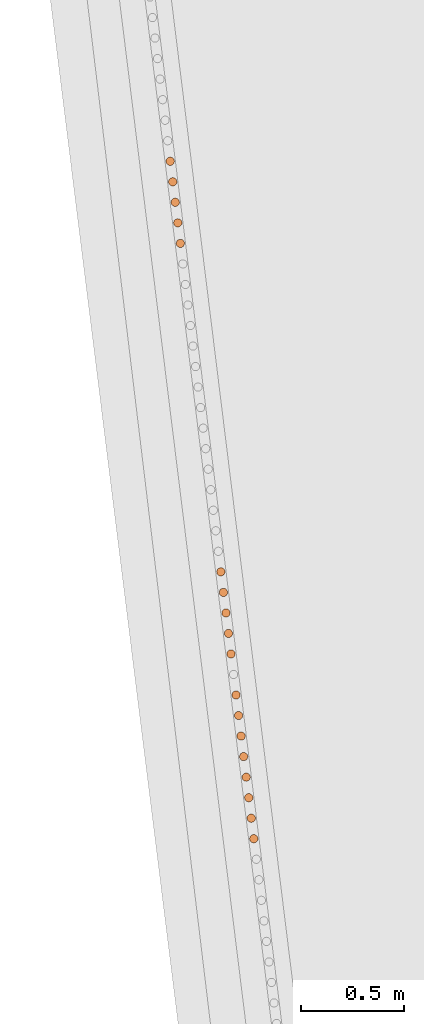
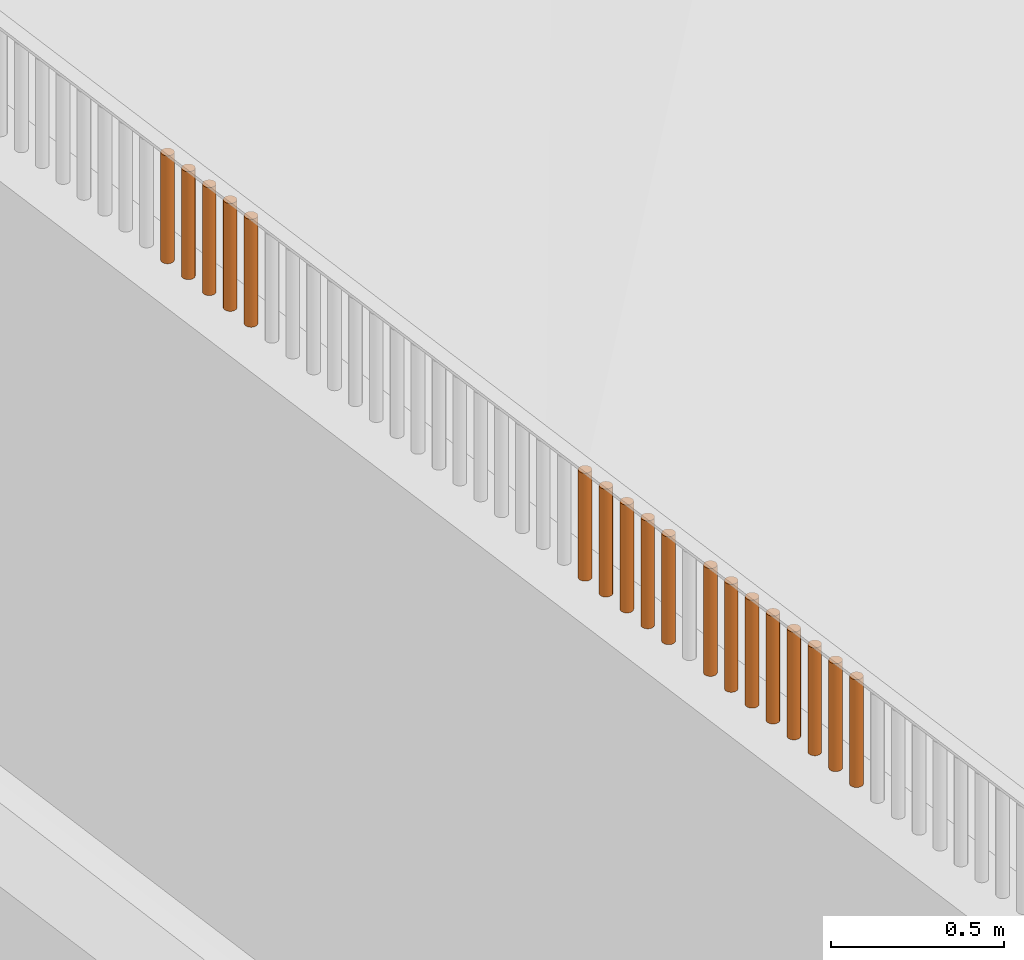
# One storey, part 222 of 1809: 18 proxies, 1 element without a shape of its own.
"""IFC2X3 building model written with IfcOpenShell, lengths in millimetres."""

from ifc_helpers import new_model, entity, si_unit, converted_unit, derived_unit, money_unit, direction, frame, origin_with_axes, place, context, subcontext, project, spatial, faceted_brep, source, transform, mapped, material, type_object, element, aggregate, save


model = new_model("IFC2X3")

# Units and contexts
model_context = context("Model", 3, precision=0.01, world=origin_with_axes(), true_north=direction((0.0, 1.0)))
body_context = subcontext(model_context, "Body", "Model", "MODEL_VIEW")
ifc_project = project(units=[si_unit("LENGTHUNIT", "METRE", prefix="MILLI"), si_unit("AREAUNIT", "SQUARE_METRE"), si_unit("VOLUMEUNIT", "CUBIC_METRE"), converted_unit("PLANEANGLEUNIT", "DEGREE", entity("IfcPlaneAngleMeasure", 0.0174532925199), si_unit("PLANEANGLEUNIT", "RADIAN"), dimensions=[0, 0, 0, 0, 0, 0, 0]), si_unit("SOLIDANGLEUNIT", "STERADIAN"), money_unit("EUR"), converted_unit("TIMEUNIT", "Year", entity("IfcTimeMeasure", 31556926.0), si_unit("TIMEUNIT", "SECOND"), dimensions=[0, 0, 1, 0, 0, 0, 0]), si_unit("MASSUNIT", "GRAM", prefix="KILO"), si_unit("THERMODYNAMICTEMPERATUREUNIT", "DEGREE_CELSIUS"), si_unit("LUMINOUSINTENSITYUNIT", "LUMEN"), si_unit("ENERGYUNIT", "JOULE", prefix="MEGA"), derived_unit("THERMALCONDUCTANCEUNIT", [(si_unit("POWERUNIT", "WATT"), 1), (si_unit("LENGTHUNIT", "METRE"), -1), (si_unit("THERMODYNAMICTEMPERATUREUNIT", "KELVIN"), -1)]), derived_unit("SPECIFICHEATCAPACITYUNIT", [(si_unit("ENERGYUNIT", "JOULE"), 1), (si_unit("MASSUNIT", "GRAM", prefix="KILO"), -1), (si_unit("THERMODYNAMICTEMPERATUREUNIT", "KELVIN"), -1)]), derived_unit("MASSDENSITYUNIT", [(si_unit("MASSUNIT", "GRAM", prefix="KILO"), 1), (si_unit("VOLUMEUNIT", "CUBIC_METRE"), -1)])], contexts=[model_context])

# Site, building, storey
site_placement = place(None, origin_with_axes())
site = spatial("IfcSite", under=ifc_project, at=site_placement, Name="Politse- ja Piirivalveameti ning Päästeameti ühishoone", CompositionType="ELEMENT")
building_placement = place(site_placement, origin_with_axes())
building = spatial("IfcBuilding", under=site, at=building_placement, Name="Politse- ja Piirivalveameti ning Päästeameti ühishoone", CompositionType="ELEMENT")
storey_placement = place(building_placement, origin_with_axes())
storey = spatial("IfcBuildingStorey", under=building, at=storey_placement, Name="Esimene korrus", CompositionType="ELEMENT", Elevation=0.0)

# Proxies
building_element_proxy_type_1 = type_object("IfcBuildingElementProxyType", Name="Railing Type", PredefinedType="NOTDEFINED")
proxy_1_placement = place(storey_placement, frame((-18956.5522504, -53688.4757966, 2100.0), z_axis=(0.0, 0.0, 1.0), x_axis=(1.0, 0.0, 0.0)))
proxy_1 = element("IfcBuildingElementProxy", 1, at=proxy_1_placement, inside=storey, type_object=building_element_proxy_type_1, Name="PIIRDEAED")
ifc_material = material(Name="ET-06_Teras - Konstruktsioon")
building_element_proxy_type_2 = type_object("IfcBuildingElementProxyType", Name="IfcBuildingElementProxy", PredefinedType="NOTDEFINED")
shared_shape_1 = source(origin_with_axes(), body_context, "Body", "Brep", [
    faceted_brep([(0.0, -20.0, 0.0), (3.47296355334, -19.6961550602, 0.0), (3.47296355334, -19.6961550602, 380.000012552), (0.0, -20.0, 380.000012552), (-3.47296355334, -19.6961550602, 0.0), (-6.84040286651, -18.7938524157, 0.0), (-10.0, -17.3205080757, 0.0), (-12.8557521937, -15.3208888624, 0.0), (-15.3208888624, -12.8557521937, 0.0), (-17.3205080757, -10.0, 0.0), (-18.7938524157, -6.84040286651, 0.0), (-19.6961550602, -3.47296355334, 0.0), (-20.0, 0.0, 0.0), (-19.6961550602, 3.47296355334, 0.0), (-18.7938524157, 6.84040286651, 0.0), (-17.3205080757, 10.0, 0.0), (-15.3208888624, 12.8557521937, 0.0), (-12.8557521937, 15.3208888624, 0.0), (-10.0, 17.3205080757, 0.0), (-6.84040286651, 18.7938524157, 0.0), (-3.47296355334, 19.6961550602, 0.0), (0.0, 20.0, 0.0), (3.47296355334, 19.6961550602, 0.0), (6.84040286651, 18.7938524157, 0.0), (10.0, 17.3205080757, 0.0), (12.8557521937, 15.3208888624, 0.0), (15.3208888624, 12.8557521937, 0.0), (17.3205080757, 10.0, 0.0), (18.7938524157, 6.84040286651, 0.0), (19.6961550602, 3.47296355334, 0.0), (20.0, 0.0, 0.0), (19.6961550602, -3.47296355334, 0.0), (18.7938524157, -6.84040286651, 0.0), (17.3205080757, -10.0, 0.0), (15.3208888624, -12.8557521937, 0.0), (12.8557521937, -15.3208888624, 0.0), (10.0, -17.3205080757, 0.0), (6.84040286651, -18.7938524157, 0.0), (6.84040286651, -18.7938524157, 380.000012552), (10.0, -17.3205080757, 380.000012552), (12.8557521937, -15.3208888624, 380.000012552), (15.3208888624, -12.8557521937, 380.000012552), (17.3205080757, -10.0, 380.000012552), (18.7938524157, -6.84040286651, 380.000012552), (19.6961550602, -3.47296355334, 380.000012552), (20.0, 0.0, 380.000012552), (19.6961550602, 3.47296355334, 380.000012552), (18.7938524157, 6.84040286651, 380.000012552), (17.3205080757, 10.0, 380.000012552), (15.3208888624, 12.8557521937, 380.000012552), (12.8557521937, 15.3208888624, 380.000012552), (10.0, 17.3205080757, 380.000012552), (6.84040286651, 18.7938524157, 380.000012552), (3.47296355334, 19.6961550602, 380.000012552), (0.0, 20.0, 380.000012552), (-3.47296355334, 19.6961550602, 380.000012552), (-6.84040286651, 18.7938524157, 380.000012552), (-10.0, 17.3205080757, 380.000012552), (-12.8557521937, 15.3208888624, 380.000012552), (-15.3208888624, 12.8557521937, 380.000012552), (-17.3205080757, 10.0, 380.000012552), (-18.7938524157, 6.84040286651, 380.000012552), (-19.6961550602, 3.47296355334, 380.000012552), (-20.0, 0.0, 380.000012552), (-19.6961550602, -3.47296355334, 380.000012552), (-18.7938524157, -6.84040286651, 380.000012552), (-17.3205080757, -10.0, 380.000012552), (-15.3208888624, -12.8557521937, 380.000012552), (-12.8557521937, -15.3208888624, 380.000012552), (-10.0, -17.3205080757, 380.000012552), (-6.84040286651, -18.7938524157, 380.000012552), (-3.47296355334, -19.6961550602, 380.000012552)], [[[0, 1, 2, 3]], [[0, 4, 5, 6, 7, 8, 9, 10, 11, 12, 13, 14, 15, 16, 17, 18, 19, 20, 21, 22, 23, 24, 25, 26, 27, 28, 29, 30, 31, 32, 33, 34, 35, 36, 37, 1]], [[1, 37, 38, 2]], [[3, 2, 38, 39, 40, 41, 42, 43, 44, 45, 46, 47, 48, 49, 50, 51, 52, 53, 54, 55, 56, 57, 58, 59, 60, 61, 62, 63, 64, 65, 66, 67, 68, 69, 70, 71]], [[4, 0, 3, 71]], [[5, 4, 71, 70]], [[6, 5, 70, 69]], [[7, 6, 69, 68]], [[8, 7, 68, 67]], [[9, 8, 67, 66]], [[10, 9, 66, 65]], [[11, 10, 65, 64]], [[12, 11, 64, 63]], [[13, 12, 63, 62]], [[14, 13, 62, 61]], [[15, 14, 61, 60]], [[16, 15, 60, 59]], [[17, 16, 59, 58]], [[18, 17, 58, 57]], [[19, 18, 57, 56]], [[20, 19, 56, 55]], [[21, 20, 55, 54]], [[22, 21, 54, 53]], [[23, 22, 53, 52]], [[24, 23, 52, 51]], [[25, 24, 51, 50]], [[26, 25, 50, 49]], [[27, 26, 49, 48]], [[28, 27, 48, 47]], [[29, 28, 47, 46]], [[30, 29, 46, 45]], [[31, 30, 45, 44]], [[32, 31, 44, 43]], [[33, 32, 43, 42]], [[34, 33, 42, 41]], [[35, 34, 41, 40]], [[36, 35, 40, 39]], [[37, 36, 39, 38]]]),
])
proxy_2_placement = place(proxy_1_placement, frame((-4698.15989006, 37228.2400611, -1.25517001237e-05), z_axis=(0.0, 0.0, 1.0), x_axis=(1.0, 0.0, 0.0)))
proxy_2 = element("IfcBuildingElementProxy", 2, at=proxy_2_placement, type_object=building_element_proxy_type_2, material=ifc_material, Name="BALUSTER - 001", context=body_context, shape_type="MappedRepresentation", body=[
    mapped(shared_shape_1, transform((0.0, 0.0, 0.0), x_axis=(0.992468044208, 0.122503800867, 0.0), y_axis=(-0.122503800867, 0.992468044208, 0.0), z_axis=(0.0, 0.0, 1.0))),
])
proxy_3_placement = place(proxy_1_placement, frame((-4722.65529988, 37426.6903239, -1.25517001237e-05), z_axis=(0.0, 0.0, 1.0), x_axis=(1.0, 0.0, 0.0)))
proxy_3 = element("IfcBuildingElementProxy", 3, at=proxy_3_placement, type_object=building_element_proxy_type_2, material=ifc_material, Name="BALUSTER - 001", context=body_context, shape_type="MappedRepresentation", body=[
    mapped(shared_shape_1, transform((0.0, 0.0, 0.0), x_axis=(0.992468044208, 0.122503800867, 0.0), y_axis=(-0.122503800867, 0.992468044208, 0.0), z_axis=(0.0, 0.0, 1.0))),
])
proxy_4_placement = place(proxy_1_placement, frame((-4734.9030048, 37525.9154553, -1.25517001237e-05), z_axis=(0.0, 0.0, 1.0), x_axis=(1.0, 0.0, 0.0)))
proxy_4 = element("IfcBuildingElementProxy", 4, at=proxy_4_placement, type_object=building_element_proxy_type_2, material=ifc_material, Name="BALUSTER - 001", context=body_context, shape_type="MappedRepresentation", body=[
    mapped(shared_shape_1, transform((0.0, 0.0, 0.0), x_axis=(0.992468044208, 0.122503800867, 0.0), y_axis=(-0.122503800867, 0.992468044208, 0.0), z_axis=(0.0, 0.0, 1.0))),
])
proxy_5_placement = place(proxy_1_placement, frame((-4747.15070971, 37625.1405868, -1.25517001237e-05), z_axis=(0.0, 0.0, 1.0), x_axis=(1.0, 0.0, 0.0)))
proxy_5 = element("IfcBuildingElementProxy", 5, at=proxy_5_placement, type_object=building_element_proxy_type_2, material=ifc_material, Name="BALUSTER - 001", context=body_context, shape_type="MappedRepresentation", body=[
    mapped(shared_shape_1, transform((0.0, 0.0, 0.0), x_axis=(0.992468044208, 0.122503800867, 0.0), y_axis=(-0.122503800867, 0.992468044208, 0.0), z_axis=(0.0, 0.0, 1.0))),
])
proxy_6_placement = place(proxy_1_placement, frame((-4771.64611954, 37823.5908496, -1.25517001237e-05), z_axis=(0.0, 0.0, 1.0), x_axis=(1.0, 0.0, 0.0)))
proxy_6 = element("IfcBuildingElementProxy", 6, at=proxy_6_placement, type_object=building_element_proxy_type_2, material=ifc_material, Name="BALUSTER - 001", context=body_context, shape_type="MappedRepresentation", body=[
    mapped(shared_shape_1, transform((0.0, 0.0, 0.0), x_axis=(0.992468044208, 0.122503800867, 0.0), y_axis=(-0.122503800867, 0.992468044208, 0.0), z_axis=(0.0, 0.0, 1.0))),
])
shared_shape_2 = source(origin_with_axes(), body_context, "Body", "Brep", [
    faceted_brep([(0.0, -20.0, 0.0), (3.47296355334, -19.6961550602, 0.0), (3.47296355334, -19.6961550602, 380.000012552), (0.0, -20.0, 380.000012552), (-3.47296355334, -19.6961550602, 0.0), (-6.84040286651, -18.7938524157, 0.0), (-10.0, -17.3205080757, 0.0), (-12.8557521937, -15.3208888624, 0.0), (-15.3208888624, -12.8557521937, 0.0), (-17.3205080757, -10.0, 0.0), (-18.7938524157, -6.84040286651, 0.0), (-19.6961550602, -3.47296355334, 0.0), (-20.0, 0.0, 0.0), (-19.6961550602, 3.47296355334, 0.0), (-18.7938524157, 6.84040286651, 0.0), (-17.3205080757, 10.0, 0.0), (-15.3208888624, 12.8557521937, 0.0), (-12.8557521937, 15.3208888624, 0.0), (-10.0, 17.3205080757, 0.0), (-6.84040286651, 18.7938524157, 0.0), (-3.47296355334, 19.6961550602, 0.0), (0.0, 20.0, 0.0), (3.47296355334, 19.6961550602, 0.0), (6.84040286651, 18.7938524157, 0.0), (10.0, 17.3205080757, 0.0), (12.8557521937, 15.3208888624, 0.0), (15.3208888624, 12.8557521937, 0.0), (17.3205080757, 10.0, 0.0), (18.7938524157, 6.84040286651, 0.0), (19.6961550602, 3.47296355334, 0.0), (20.0, 0.0, 0.0), (19.6961550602, -3.47296355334, 0.0), (18.7938524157, -6.84040286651, 0.0), (17.3205080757, -10.0, 0.0), (15.3208888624, -12.8557521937, 0.0), (12.8557521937, -15.3208888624, 0.0), (10.0, -17.3205080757, 0.0), (6.84040286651, -18.7938524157, 0.0), (6.84040286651, -18.7938524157, 380.000012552), (10.0, -17.3205080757, 380.000012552), (12.8557521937, -15.3208888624, 380.000012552), (15.3208888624, -12.8557521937, 380.000012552), (17.3205080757, -10.0, 380.000012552), (18.7938524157, -6.84040286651, 380.000012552), (19.6961550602, -3.47296355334, 380.000012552), (20.0, 0.0, 380.000012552), (19.6961550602, 3.47296355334, 380.000012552), (18.7938524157, 6.84040286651, 380.000012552), (17.3205080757, 10.0, 380.000012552), (15.3208888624, 12.8557521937, 380.000012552), (12.8557521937, 15.3208888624, 380.000012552), (10.0, 17.3205080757, 380.000012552), (6.84040286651, 18.7938524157, 380.000012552), (3.47296355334, 19.6961550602, 380.000012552), (0.0, 20.0, 380.000012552), (-3.47296355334, 19.6961550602, 380.000012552), (-6.84040286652, 18.7938524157, 380.000012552), (-10.0, 17.3205080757, 380.000012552), (-12.8557521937, 15.3208888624, 380.000012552), (-15.3208888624, 12.8557521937, 380.000012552), (-17.3205080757, 10.0, 380.000012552), (-18.7938524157, 6.84040286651, 380.000012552), (-19.6961550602, 3.47296355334, 380.000012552), (-20.0, 0.0, 380.000012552), (-19.6961550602, -3.47296355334, 380.000012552), (-18.7938524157, -6.84040286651, 380.000012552), (-17.3205080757, -10.0, 380.000012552), (-15.3208888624, -12.8557521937, 380.000012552), (-12.8557521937, -15.3208888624, 380.000012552), (-10.0, -17.3205080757, 380.000012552), (-6.84040286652, -18.7938524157, 380.000012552), (-3.47296355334, -19.6961550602, 380.000012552)], [[[0, 1, 2, 3]], [[0, 4, 5, 6, 7, 8, 9, 10, 11, 12, 13, 14, 15, 16, 17, 18, 19, 20, 21, 22, 23, 24, 25, 26, 27, 28, 29, 30, 31, 32, 33, 34, 35, 36, 37, 1]], [[1, 37, 38, 2]], [[3, 2, 38, 39, 40, 41, 42, 43, 44, 45, 46, 47, 48, 49, 50, 51, 52, 53, 54, 55, 56, 57, 58, 59, 60, 61, 62, 63, 64, 65, 66, 67, 68, 69, 70, 71]], [[4, 0, 3, 71]], [[5, 4, 71, 70]], [[6, 5, 70, 69]], [[7, 6, 69, 68]], [[8, 7, 68, 67]], [[9, 8, 67, 66]], [[10, 9, 66, 65]], [[11, 10, 65, 64]], [[12, 11, 64, 63]], [[13, 12, 63, 62]], [[14, 13, 62, 61]], [[15, 14, 61, 60]], [[16, 15, 60, 59]], [[17, 16, 59, 58]], [[18, 17, 58, 57]], [[19, 18, 57, 56]], [[20, 19, 56, 55]], [[21, 20, 55, 54]], [[22, 21, 54, 53]], [[23, 22, 53, 52]], [[24, 23, 52, 51]], [[25, 24, 51, 50]], [[26, 25, 50, 49]], [[27, 26, 49, 48]], [[28, 27, 48, 47]], [[29, 28, 47, 46]], [[30, 29, 46, 45]], [[31, 30, 45, 44]], [[32, 31, 44, 43]], [[33, 32, 43, 42]], [[34, 33, 42, 41]], [[35, 34, 41, 40]], [[36, 35, 40, 39]], [[37, 36, 39, 38]]]),
])
proxy_7_placement = place(proxy_1_placement, frame((-4624.67366058, 36632.8892725, -1.25517001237e-05), z_axis=(0.0, 0.0, 1.0), x_axis=(1.0, 0.0, 0.0)))
proxy_7 = element("IfcBuildingElementProxy", 7, at=proxy_7_placement, type_object=building_element_proxy_type_2, material=ifc_material, Name="BALUSTER - 001", context=body_context, shape_type="MappedRepresentation", body=[
    mapped(shared_shape_2, transform((0.0, 0.0, 0.0), x_axis=(0.992468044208, 0.122503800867, 0.0), y_axis=(-0.122503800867, 0.992468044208, 0.0), z_axis=(0.0, 0.0, 1.0))),
])
proxy_8_placement = place(proxy_1_placement, frame((-5004.35251288, 39708.8683467, -1.25517001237e-05), z_axis=(0.0, 0.0, 1.0), x_axis=(1.0, 0.0, 0.0)))
proxy_8 = element("IfcBuildingElementProxy", 8, at=proxy_8_placement, type_object=building_element_proxy_type_2, material=ifc_material, Name="BALUSTER - 001", context=body_context, shape_type="MappedRepresentation", body=[
    mapped(shared_shape_2, transform((0.0, 0.0, 0.0), x_axis=(0.992468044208, 0.122503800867, 0.0), y_axis=(-0.122503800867, 0.992468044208, 0.0), z_axis=(0.0, 0.0, 1.0))),
])
shared_shape_3 = source(origin_with_axes(), body_context, "Body", "Brep", [
    faceted_brep([(0.0, -20.0, 0.0), (3.47296355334, -19.6961550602, 0.0), (3.47296355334, -19.6961550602, 380.000012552), (0.0, -20.0, 380.000012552), (-3.47296355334, -19.6961550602, 0.0), (-6.84040286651, -18.7938524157, 0.0), (-10.0, -17.3205080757, 0.0), (-12.8557521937, -15.3208888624, 0.0), (-15.3208888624, -12.8557521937, 0.0), (-17.3205080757, -10.0, 0.0), (-18.7938524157, -6.84040286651, 0.0), (-19.6961550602, -3.47296355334, 0.0), (-20.0, 0.0, 0.0), (-19.6961550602, 3.47296355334, 0.0), (-18.7938524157, 6.84040286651, 0.0), (-17.3205080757, 10.0, 0.0), (-15.3208888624, 12.8557521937, 0.0), (-12.8557521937, 15.3208888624, 0.0), (-10.0, 17.3205080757, 0.0), (-6.84040286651, 18.7938524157, 0.0), (-3.47296355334, 19.6961550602, 0.0), (0.0, 20.0, 0.0), (3.47296355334, 19.6961550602, 0.0), (6.84040286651, 18.7938524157, 0.0), (10.0, 17.3205080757, 0.0), (12.8557521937, 15.3208888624, 0.0), (15.3208888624, 12.8557521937, 0.0), (17.3205080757, 10.0, 0.0), (18.7938524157, 6.84040286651, 0.0), (19.6961550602, 3.47296355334, 0.0), (20.0, 0.0, 0.0), (19.6961550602, -3.47296355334, 0.0), (18.7938524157, -6.84040286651, 0.0), (17.3205080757, -10.0, 0.0), (15.3208888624, -12.8557521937, 0.0), (12.8557521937, -15.3208888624, 0.0), (10.0, -17.3205080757, 0.0), (6.84040286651, -18.7938524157, 0.0), (6.84040286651, -18.7938524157, 380.000012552), (10.0, -17.3205080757, 380.000012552), (12.8557521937, -15.3208888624, 380.000012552), (15.3208888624, -12.8557521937, 380.000012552), (17.3205080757, -10.0, 380.000012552), (18.7938524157, -6.84040286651, 380.000012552), (19.6961550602, -3.47296355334, 380.000012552), (20.0, 0.0, 380.000012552), (19.6961550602, 3.47296355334, 380.000012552), (18.7938524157, 6.84040286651, 380.000012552), (17.3205080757, 10.0, 380.000012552), (15.3208888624, 12.8557521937, 380.000012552), (12.8557521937, 15.3208888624, 380.000012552), (10.0, 17.3205080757, 380.000012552), (6.84040286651, 18.7938524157, 380.000012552), (3.47296355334, 19.6961550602, 380.000012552), (0.0, 20.0, 380.000012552), (-3.47296355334, 19.6961550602, 380.000012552), (-6.84040286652, 18.7938524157, 380.000012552), (-10.0, 17.3205080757, 380.000012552), (-12.8557521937, 15.3208888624, 380.000012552), (-15.3208888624, 12.8557521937, 380.000012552), (-17.3205080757, 10.0, 380.000012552), (-18.7938524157, 6.84040286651, 380.000012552), (-19.6961550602, 3.47296355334, 380.000012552), (-20.0, 0.0, 380.000012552), (-19.6961550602, -3.47296355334, 380.000012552), (-18.7938524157, -6.84040286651, 380.000012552), (-17.3205080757, -10.0, 380.000012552), (-15.3208888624, -12.8557521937, 380.000012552), (-12.8557521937, -15.3208888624, 380.000012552), (-10.0, -17.3205080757, 380.000012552), (-6.84040286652, -18.7938524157, 380.000012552), (-3.47296355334, -19.6961550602, 380.000012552)], [[[0, 1, 2, 3]], [[0, 4, 5, 6, 7, 8, 9, 10, 11, 12, 13, 14, 15, 16, 17, 18, 19, 20, 21, 22, 23, 24, 25, 26, 27, 28, 29, 30, 31, 32, 33, 34, 35, 36, 37, 1]], [[1, 37, 38, 2]], [[3, 2, 38, 39, 40, 41, 42, 43, 44, 45, 46, 47, 48, 49, 50, 51, 52, 53, 54, 55, 56, 57, 58, 59, 60, 61, 62, 63, 64, 65, 66, 67, 68, 69, 70, 71]], [[4, 0, 3, 71]], [[5, 4, 71, 70]], [[6, 5, 70, 69]], [[7, 6, 69, 68]], [[8, 7, 68, 67]], [[9, 8, 67, 66]], [[10, 9, 66, 65]], [[11, 10, 65, 64]], [[12, 11, 64, 63]], [[13, 12, 63, 62]], [[14, 13, 62, 61]], [[15, 14, 61, 60]], [[16, 15, 60, 59]], [[17, 16, 59, 58]], [[18, 17, 58, 57]], [[19, 18, 57, 56]], [[20, 19, 56, 55]], [[21, 20, 55, 54]], [[22, 21, 54, 53]], [[23, 22, 53, 52]], [[24, 23, 52, 51]], [[25, 24, 51, 50]], [[26, 25, 50, 49]], [[27, 26, 49, 48]], [[28, 27, 48, 47]], [[29, 28, 47, 46]], [[30, 29, 46, 45]], [[31, 30, 45, 44]], [[32, 31, 44, 43]], [[33, 32, 43, 42]], [[34, 33, 42, 41]], [[35, 34, 41, 40]], [[36, 35, 40, 39]], [[37, 36, 39, 38]]]),
])
proxy_9_placement = place(proxy_1_placement, frame((-4649.16907041, 36831.3395354, -1.25517001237e-05), z_axis=(0.0, 0.0, 1.0), x_axis=(1.0, 0.0, 0.0)))
proxy_9 = element("IfcBuildingElementProxy", 9, at=proxy_9_placement, type_object=building_element_proxy_type_2, material=ifc_material, Name="BALUSTER - 001", context=body_context, shape_type="MappedRepresentation", body=[
    mapped(shared_shape_3, transform((0.0, 0.0, 0.0), x_axis=(0.992468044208, 0.122503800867, 0.0), y_axis=(-0.122503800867, 0.992468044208, 0.0), z_axis=(0.0, 0.0, 1.0))),
])
proxy_10_placement = place(proxy_1_placement, frame((-4661.41677532, 36930.5646668, -1.25517001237e-05), z_axis=(0.0, 0.0, 1.0), x_axis=(1.0, 0.0, 0.0)))
proxy_10 = element("IfcBuildingElementProxy", 10, at=proxy_10_placement, type_object=building_element_proxy_type_2, material=ifc_material, Name="BALUSTER - 001", context=body_context, shape_type="MappedRepresentation", body=[
    mapped(shared_shape_3, transform((0.0, 0.0, 0.0), x_axis=(0.992468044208, 0.122503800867, 0.0), y_axis=(-0.122503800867, 0.992468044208, 0.0), z_axis=(0.0, 0.0, 1.0))),
])
proxy_11_placement = place(proxy_1_placement, frame((-4685.91218514, 37129.0149296, -1.25517001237e-05), z_axis=(0.0, 0.0, 1.0), x_axis=(1.0, 0.0, 0.0)))
proxy_11 = element("IfcBuildingElementProxy", 11, at=proxy_11_placement, type_object=building_element_proxy_type_2, material=ifc_material, Name="BALUSTER - 001", context=body_context, shape_type="MappedRepresentation", body=[
    mapped(shared_shape_3, transform((0.0, 0.0, 0.0), x_axis=(0.992468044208, 0.122503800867, 0.0), y_axis=(-0.122503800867, 0.992468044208, 0.0), z_axis=(0.0, 0.0, 1.0))),
])
proxy_12_placement = place(proxy_1_placement, frame((-4967.60939815, 39411.1929524, -1.25517001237e-05), z_axis=(0.0, 0.0, 1.0), x_axis=(1.0, 0.0, 0.0)))
proxy_12 = element("IfcBuildingElementProxy", 12, at=proxy_12_placement, type_object=building_element_proxy_type_2, material=ifc_material, Name="BALUSTER - 001", context=body_context, shape_type="MappedRepresentation", body=[
    mapped(shared_shape_3, transform((0.0, 0.0, 0.0), x_axis=(0.992468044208, 0.122503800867, 0.0), y_axis=(-0.122503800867, 0.992468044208, 0.0), z_axis=(0.0, 0.0, 1.0))),
])
shared_shape_4 = source(origin_with_axes(), body_context, "Body", "Brep", [
    faceted_brep([(0.0, -20.0, 0.0), (3.47296355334, -19.6961550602, 0.0), (3.47296355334, -19.6961550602, 380.000012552), (0.0, -20.0, 380.000012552), (-3.47296355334, -19.6961550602, 0.0), (-6.84040286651, -18.7938524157, 0.0), (-10.0, -17.3205080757, 0.0), (-12.8557521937, -15.3208888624, 0.0), (-15.3208888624, -12.8557521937, 0.0), (-17.3205080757, -10.0, 0.0), (-18.7938524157, -6.84040286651, 0.0), (-19.6961550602, -3.47296355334, 0.0), (-20.0, 0.0, 0.0), (-19.6961550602, 3.47296355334, 0.0), (-18.7938524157, 6.84040286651, 0.0), (-17.3205080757, 10.0, 0.0), (-15.3208888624, 12.8557521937, 0.0), (-12.8557521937, 15.3208888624, 0.0), (-10.0, 17.3205080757, 0.0), (-6.84040286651, 18.7938524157, 0.0), (-3.47296355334, 19.6961550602, 0.0), (0.0, 20.0, 0.0), (3.47296355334, 19.6961550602, 0.0), (6.84040286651, 18.7938524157, 0.0), (10.0, 17.3205080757, 0.0), (12.8557521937, 15.3208888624, 0.0), (15.3208888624, 12.8557521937, 0.0), (17.3205080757, 10.0, 0.0), (18.7938524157, 6.84040286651, 0.0), (19.6961550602, 3.47296355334, 0.0), (20.0, 0.0, 0.0), (19.6961550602, -3.47296355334, 0.0), (18.7938524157, -6.84040286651, 0.0), (17.3205080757, -10.0, 0.0), (15.3208888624, -12.8557521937, 0.0), (12.8557521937, -15.3208888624, 0.0), (10.0, -17.3205080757, 0.0), (6.84040286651, -18.7938524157, 0.0), (6.84040286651, -18.7938524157, 380.000012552), (10.0, -17.3205080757, 380.000012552), (12.8557521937, -15.3208888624, 380.000012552), (15.3208888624, -12.8557521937, 380.000012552), (17.3205080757, -10.0, 380.000012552), (18.7938524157, -6.84040286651, 380.000012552), (19.6961550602, -3.47296355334, 380.000012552), (20.0, 0.0, 380.000012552), (19.6961550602, 3.47296355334, 380.000012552), (18.7938524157, 6.84040286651, 380.000012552), (17.3205080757, 10.0, 380.000012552), (15.3208888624, 12.8557521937, 380.000012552), (12.8557521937, 15.3208888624, 380.000012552), (10.0, 17.3205080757, 380.000012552), (6.84040286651, 18.7938524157, 380.000012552), (3.47296355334, 19.6961550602, 380.000012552), (0.0, 20.0, 380.000012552), (-3.47296355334, 19.6961550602, 380.000012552), (-6.84040286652, 18.7938524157, 380.000012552), (-10.0, 17.3205080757, 380.000012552), (-12.8557521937, 15.3208888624, 380.000012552), (-15.3208888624, 12.8557521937, 380.000012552), (-17.3205080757, 10.0, 380.000012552), (-18.7938524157, 6.84040286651, 380.000012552), (-19.6961550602, 3.47296355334, 380.000012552), (-20.0, 0.0, 380.000012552), (-19.6961550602, -3.47296355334, 380.000012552), (-18.7938524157, -6.84040286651, 380.000012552), (-17.3205080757, -10.0, 380.000012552), (-15.3208888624, -12.8557521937, 380.000012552), (-12.8557521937, -15.3208888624, 380.000012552), (-10.0, -17.3205080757, 380.000012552), (-6.84040286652, -18.7938524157, 380.000012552), (-3.47296355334, -19.6961550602, 380.000012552)], [[[0, 1, 2, 3]], [[0, 4, 5, 6, 7, 8, 9, 10, 11, 12, 13, 14, 15, 16, 17, 18, 19, 20, 21, 22, 23, 24, 25, 26, 27, 28, 29, 30, 31, 32, 33, 34, 35, 36, 37, 1]], [[1, 37, 38, 2]], [[3, 2, 38, 39, 40, 41, 42, 43, 44, 45, 46, 47, 48, 49, 50, 51, 52, 53, 54, 55, 56, 57, 58, 59, 60, 61, 62, 63, 64, 65, 66, 67, 68, 69, 70, 71]], [[4, 0, 3, 71]], [[5, 4, 71, 70]], [[6, 5, 70, 69]], [[7, 6, 69, 68]], [[8, 7, 68, 67]], [[9, 8, 67, 66]], [[10, 9, 66, 65]], [[11, 10, 65, 64]], [[12, 11, 64, 63]], [[13, 12, 63, 62]], [[14, 13, 62, 61]], [[15, 14, 61, 60]], [[16, 15, 60, 59]], [[17, 16, 59, 58]], [[18, 17, 58, 57]], [[19, 18, 57, 56]], [[20, 19, 56, 55]], [[21, 20, 55, 54]], [[22, 21, 54, 53]], [[23, 22, 53, 52]], [[24, 23, 52, 51]], [[25, 24, 51, 50]], [[26, 25, 50, 49]], [[27, 26, 49, 48]], [[28, 27, 48, 47]], [[29, 28, 47, 46]], [[30, 29, 46, 45]], [[31, 30, 45, 44]], [[32, 31, 44, 43]], [[33, 32, 43, 42]], [[34, 33, 42, 41]], [[35, 34, 41, 40]], [[36, 35, 40, 39]], [[37, 36, 39, 38]]]),
])
proxy_13_placement = place(proxy_1_placement, frame((-4612.42595567, 36533.6641411, -1.25517001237e-05), z_axis=(0.0, 0.0, 1.0), x_axis=(1.0, 0.0, 0.0)))
proxy_13 = element("IfcBuildingElementProxy", 13, at=proxy_13_placement, type_object=building_element_proxy_type_2, material=ifc_material, Name="BALUSTER - 001", context=body_context, shape_type="MappedRepresentation", body=[
    mapped(shared_shape_4, transform((0.0, 0.0, 0.0), x_axis=(0.992468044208, 0.122503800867, 0.0), y_axis=(-0.122503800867, 0.992468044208, 0.0), z_axis=(0.0, 0.0, 1.0))),
])
proxy_14_placement = place(proxy_1_placement, frame((-4636.92136549, 36732.1144039, -1.25517001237e-05), z_axis=(0.0, 0.0, 1.0), x_axis=(1.0, 0.0, 0.0)))
proxy_14 = element("IfcBuildingElementProxy", 14, at=proxy_14_placement, type_object=building_element_proxy_type_2, material=ifc_material, Name="BALUSTER - 001", context=body_context, shape_type="MappedRepresentation", body=[
    mapped(shared_shape_4, transform((0.0, 0.0, 0.0), x_axis=(0.992468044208, 0.122503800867, 0.0), y_axis=(-0.122503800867, 0.992468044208, 0.0), z_axis=(0.0, 0.0, 1.0))),
])
proxy_15_placement = place(proxy_1_placement, frame((-4673.66448023, 37029.7897982, -1.25517001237e-05), z_axis=(0.0, 0.0, 1.0), x_axis=(1.0, 0.0, 0.0)))
proxy_15 = element("IfcBuildingElementProxy", 15, at=proxy_15_placement, type_object=building_element_proxy_type_2, material=ifc_material, Name="BALUSTER - 001", context=body_context, shape_type="MappedRepresentation", body=[
    mapped(shared_shape_4, transform((0.0, 0.0, 0.0), x_axis=(0.992468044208, 0.122503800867, 0.0), y_axis=(-0.122503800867, 0.992468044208, 0.0), z_axis=(0.0, 0.0, 1.0))),
])
proxy_16_placement = place(proxy_1_placement, frame((-4759.39841462, 37724.3657182, -1.25517001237e-05), z_axis=(0.0, 0.0, 1.0), x_axis=(1.0, 0.0, 0.0)))
proxy_16 = element("IfcBuildingElementProxy", 16, at=proxy_16_placement, type_object=building_element_proxy_type_2, material=ifc_material, Name="BALUSTER - 001", context=body_context, shape_type="MappedRepresentation", body=[
    mapped(shared_shape_4, transform((0.0, 0.0, 0.0), x_axis=(0.992468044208, 0.122503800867, 0.0), y_axis=(-0.122503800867, 0.992468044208, 0.0), z_axis=(0.0, 0.0, 1.0))),
])
proxy_17_placement = place(proxy_1_placement, frame((-5016.6002178, 39808.0934781, -1.25517001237e-05), z_axis=(0.0, 0.0, 1.0), x_axis=(1.0, 0.0, 0.0)))
proxy_17 = element("IfcBuildingElementProxy", 17, at=proxy_17_placement, type_object=building_element_proxy_type_2, material=ifc_material, Name="BALUSTER - 001", context=body_context, shape_type="MappedRepresentation", body=[
    mapped(shared_shape_4, transform((0.0, 0.0, 0.0), x_axis=(0.992468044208, 0.122503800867, 0.0), y_axis=(-0.122503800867, 0.992468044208, 0.0), z_axis=(0.0, 0.0, 1.0))),
])
shared_shape_5 = source(origin_with_axes(), body_context, "Body", "Brep", [
    faceted_brep([(0.0, -20.0, 0.0), (3.47296355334, -19.6961550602, 0.0), (3.47296355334, -19.6961550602, 380.000012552), (0.0, -20.0, 380.000012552), (-3.47296355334, -19.6961550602, 0.0), (-6.84040286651, -18.7938524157, 0.0), (-10.0, -17.3205080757, 0.0), (-12.8557521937, -15.3208888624, 0.0), (-15.3208888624, -12.8557521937, 0.0), (-17.3205080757, -10.0, 0.0), (-18.7938524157, -6.84040286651, 0.0), (-19.6961550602, -3.47296355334, 0.0), (-20.0, 0.0, 0.0), (-19.6961550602, 3.47296355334, 0.0), (-18.7938524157, 6.84040286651, 0.0), (-17.3205080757, 10.0, 0.0), (-15.3208888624, 12.8557521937, 0.0), (-12.8557521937, 15.3208888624, 0.0), (-10.0, 17.3205080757, 0.0), (-6.84040286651, 18.7938524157, 0.0), (-3.47296355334, 19.6961550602, 0.0), (0.0, 20.0, 0.0), (3.47296355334, 19.6961550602, 0.0), (6.84040286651, 18.7938524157, 0.0), (10.0, 17.3205080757, 0.0), (12.8557521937, 15.3208888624, 0.0), (15.3208888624, 12.8557521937, 0.0), (17.3205080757, 10.0, 0.0), (18.7938524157, 6.84040286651, 0.0), (19.6961550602, 3.47296355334, 0.0), (20.0, 0.0, 0.0), (19.6961550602, -3.47296355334, 0.0), (18.7938524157, -6.84040286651, 0.0), (17.3205080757, -10.0, 0.0), (15.3208888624, -12.8557521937, 0.0), (12.8557521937, -15.3208888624, 0.0), (10.0, -17.3205080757, 0.0), (6.84040286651, -18.7938524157, 0.0), (6.84040286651, -18.7938524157, 380.000012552), (10.0, -17.3205080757, 380.000012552), (12.8557521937, -15.3208888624, 380.000012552), (15.3208888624, -12.8557521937, 380.000012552), (17.3205080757, -10.0, 380.000012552), (18.7938524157, -6.84040286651, 380.000012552), (19.6961550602, -3.47296355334, 380.000012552), (20.0, 0.0, 380.000012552), (19.6961550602, 3.47296355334, 380.000012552), (18.7938524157, 6.84040286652, 380.000012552), (17.3205080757, 10.0, 380.000012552), (15.3208888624, 12.8557521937, 380.000012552), (12.8557521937, 15.3208888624, 380.000012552), (10.0, 17.3205080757, 380.000012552), (6.84040286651, 18.7938524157, 380.000012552), (3.47296355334, 19.6961550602, 380.000012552), (0.0, 20.0, 380.000012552), (-3.47296355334, 19.6961550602, 380.000012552), (-6.84040286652, 18.7938524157, 380.000012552), (-10.0, 17.3205080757, 380.000012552), (-12.8557521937, 15.3208888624, 380.000012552), (-15.3208888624, 12.8557521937, 380.000012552), (-17.3205080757, 10.0, 380.000012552), (-18.7938524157, 6.84040286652, 380.000012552), (-19.6961550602, 3.47296355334, 380.000012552), (-20.0, 0.0, 380.000012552), (-19.6961550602, -3.47296355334, 380.000012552), (-18.7938524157, -6.84040286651, 380.000012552), (-17.3205080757, -10.0, 380.000012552), (-15.3208888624, -12.8557521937, 380.000012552), (-12.8557521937, -15.3208888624, 380.000012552), (-10.0, -17.3205080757, 380.000012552), (-6.84040286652, -18.7938524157, 380.000012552), (-3.47296355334, -19.6961550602, 380.000012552)], [[[0, 1, 2, 3]], [[0, 4, 5, 6, 7, 8, 9, 10, 11, 12, 13, 14, 15, 16, 17, 18, 19, 20, 21, 22, 23, 24, 25, 26, 27, 28, 29, 30, 31, 32, 33, 34, 35, 36, 37, 1]], [[1, 37, 38, 2]], [[3, 2, 38, 39, 40, 41, 42, 43, 44, 45, 46, 47, 48, 49, 50, 51, 52, 53, 54, 55, 56, 57, 58, 59, 60, 61, 62, 63, 64, 65, 66, 67, 68, 69, 70, 71]], [[4, 0, 3, 71]], [[5, 4, 71, 70]], [[6, 5, 70, 69]], [[7, 6, 69, 68]], [[8, 7, 68, 67]], [[9, 8, 67, 66]], [[10, 9, 66, 65]], [[11, 10, 65, 64]], [[12, 11, 64, 63]], [[13, 12, 63, 62]], [[14, 13, 62, 61]], [[15, 14, 61, 60]], [[16, 15, 60, 59]], [[17, 16, 59, 58]], [[18, 17, 58, 57]], [[19, 18, 57, 56]], [[20, 19, 56, 55]], [[21, 20, 55, 54]], [[22, 21, 54, 53]], [[23, 22, 53, 52]], [[24, 23, 52, 51]], [[25, 24, 51, 50]], [[26, 25, 50, 49]], [[27, 26, 49, 48]], [[28, 27, 48, 47]], [[29, 28, 47, 46]], [[30, 29, 46, 45]], [[31, 30, 45, 44]], [[32, 31, 44, 43]], [[33, 32, 43, 42]], [[34, 33, 42, 41]], [[35, 34, 41, 40]], [[36, 35, 40, 39]], [[37, 36, 39, 38]]]),
])
proxy_18_placement = place(proxy_1_placement, frame((-4979.85710306, 39510.4180839, -1.25517001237e-05), z_axis=(0.0, 0.0, 1.0), x_axis=(1.0, 0.0, 0.0)))
proxy_18 = element("IfcBuildingElementProxy", 18, at=proxy_18_placement, type_object=building_element_proxy_type_2, material=ifc_material, Name="BALUSTER - 001", context=body_context, shape_type="MappedRepresentation", body=[
    mapped(shared_shape_5, transform((0.0, 0.0, 0.0), x_axis=(0.992468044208, 0.122503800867, 0.0), y_axis=(-0.122503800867, 0.992468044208, 0.0), z_axis=(0.0, 0.0, 1.0))),
])
proxy_19_placement = place(proxy_1_placement, frame((-4992.10480797, 39609.6432153, -1.25517001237e-05), z_axis=(0.0, 0.0, 1.0), x_axis=(1.0, 0.0, 0.0)))
proxy_19 = element("IfcBuildingElementProxy", 19, at=proxy_19_placement, type_object=building_element_proxy_type_2, material=ifc_material, Name="BALUSTER - 001", context=body_context, shape_type="MappedRepresentation", body=[
    mapped(shared_shape_5, transform((0.0, 0.0, 0.0), x_axis=(0.992468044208, 0.122503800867, 0.0), y_axis=(-0.122503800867, 0.992468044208, 0.0), z_axis=(0.0, 0.0, 1.0))),
])
aggregate(proxy_1, [proxy_13, proxy_7, proxy_14, proxy_9, proxy_10, proxy_15, proxy_11, proxy_2, proxy_3, proxy_4, proxy_5, proxy_16, proxy_6, proxy_12, proxy_18, proxy_19, proxy_8, proxy_17])

save(model, "model.ifc")
